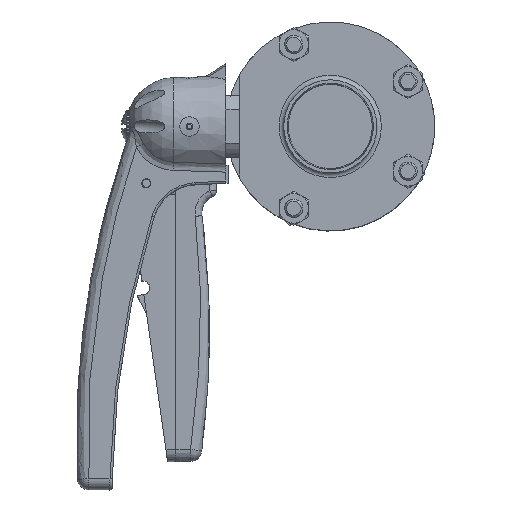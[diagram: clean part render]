
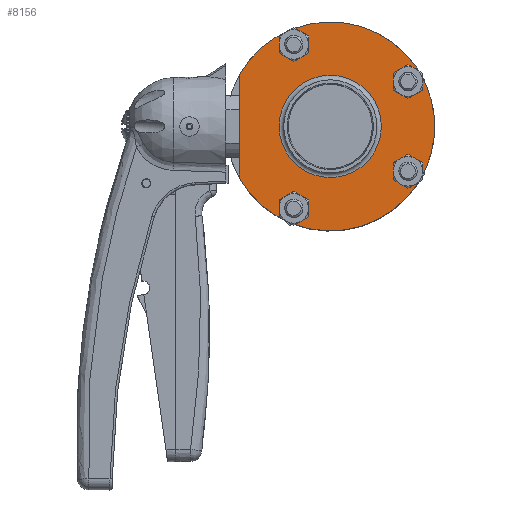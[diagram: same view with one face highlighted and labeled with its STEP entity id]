
A CAD part, top view. The second image highlights one B-rep face of the part: STEP entity #8156.
In plain terms, the highlighted planar face has unit normal (0, 0, 1) as drawn and (0, -1, 0) by its records, which use the part's own axes.
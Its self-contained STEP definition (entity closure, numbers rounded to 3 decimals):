
#914=FACE_BOUND('',#1681,.T.);
#915=FACE_BOUND('',#1682,.T.);
#916=FACE_BOUND('',#1683,.T.);
#917=FACE_BOUND('',#1684,.T.);
#918=FACE_BOUND('',#1685,.T.);
#962=PLANE('',#8832);
#1190=FACE_OUTER_BOUND('',#1680,.T.);
#1680=EDGE_LOOP('',(#5720,#5721));
#1681=EDGE_LOOP('',(#5722));
#1682=EDGE_LOOP('',(#5723));
#1683=EDGE_LOOP('',(#5724));
#1684=EDGE_LOOP('',(#5725));
#1685=EDGE_LOOP('',(#5726));
#2197=LINE('',#11754,#2773);
#2773=VECTOR('',#9667,10.);
#3343=CIRCLE('',#8813,4.25);
#3345=CIRCLE('',#8816,4.25);
#3347=CIRCLE('',#8819,4.25);
#3349=CIRCLE('',#8822,4.25);
#3355=CIRCLE('',#8831,22.5);
#3356=CIRCLE('',#8833,46.);
#3659=VERTEX_POINT('',#11726);
#3661=VERTEX_POINT('',#11732);
#3663=VERTEX_POINT('',#11738);
#3665=VERTEX_POINT('',#11744);
#3667=VERTEX_POINT('',#11750);
#3669=VERTEX_POINT('',#11753);
#3673=VERTEX_POINT('',#11765);
#4437=EDGE_CURVE('',#3659,#3659,#3343,.T.);
#4440=EDGE_CURVE('',#3661,#3661,#3345,.T.);
#4443=EDGE_CURVE('',#3663,#3663,#3347,.T.);
#4446=EDGE_CURVE('',#3665,#3665,#3349,.T.);
#4450=EDGE_CURVE('',#3669,#3667,#2197,.T.);
#4457=EDGE_CURVE('',#3673,#3673,#3355,.T.);
#4458=EDGE_CURVE('',#3669,#3667,#3356,.T.);
#5720=ORIENTED_EDGE('',*,*,#4450,.T.);
#5721=ORIENTED_EDGE('',*,*,#4458,.F.);
#5722=ORIENTED_EDGE('',*,*,#4437,.T.);
#5723=ORIENTED_EDGE('',*,*,#4440,.T.);
#5724=ORIENTED_EDGE('',*,*,#4443,.T.);
#5725=ORIENTED_EDGE('',*,*,#4446,.T.);
#5726=ORIENTED_EDGE('',*,*,#4457,.T.);
#8156=ADVANCED_FACE('',(#1190,#914,#915,#916,#917,#918),#962,.T.);
#8813=AXIS2_PLACEMENT_3D('',#11727,#9638,#9639);
#8816=AXIS2_PLACEMENT_3D('',#11733,#9645,#9646);
#8819=AXIS2_PLACEMENT_3D('',#11739,#9652,#9653);
#8822=AXIS2_PLACEMENT_3D('',#11745,#9659,#9660);
#8831=AXIS2_PLACEMENT_3D('',#11767,#9682,#9683);
#8832=AXIS2_PLACEMENT_3D('',#11768,#9684,#9685);
#8833=AXIS2_PLACEMENT_3D('',#11769,#9686,#9687);
#9638=DIRECTION('center_axis',(0.,1.,0.));
#9639=DIRECTION('ref_axis',(-1.,0.,0.));
#9645=DIRECTION('center_axis',(0.,1.,0.));
#9646=DIRECTION('ref_axis',(-1.,0.,0.));
#9652=DIRECTION('center_axis',(0.,1.,0.));
#9653=DIRECTION('ref_axis',(-1.,0.,0.));
#9659=DIRECTION('center_axis',(0.,1.,0.));
#9660=DIRECTION('ref_axis',(-1.,0.,0.));
#9667=DIRECTION('',(-1.,0.,0.));
#9682=DIRECTION('center_axis',(0.,1.,0.));
#9683=DIRECTION('ref_axis',(1.,0.,0.));
#9684=DIRECTION('center_axis',(0.,-1.,0.));
#9685=DIRECTION('ref_axis',(0.,0.,-1.));
#9686=DIRECTION('center_axis',(0.,1.,0.));
#9687=DIRECTION('ref_axis',(1.,0.,0.));
#11726=CARTESIAN_POINT('',(24.,-10.,-34.208));
#11727=CARTESIAN_POINT('Origin',(19.75,-10.,-34.208));
#11732=CARTESIAN_POINT('',(-15.5,-10.,-34.208));
#11733=CARTESIAN_POINT('Origin',(-19.75,-10.,-34.208));
#11738=CARTESIAN_POINT('',(-31.835,-10.,16.066));
#11739=CARTESIAN_POINT('Origin',(-36.085,-10.,16.066));
#11744=CARTESIAN_POINT('',(40.335,-10.,16.066));
#11745=CARTESIAN_POINT('Origin',(36.085,-10.,16.066));
#11750=CARTESIAN_POINT('',(-22.716,-10.,40.));
#11753=CARTESIAN_POINT('',(22.716,-10.,40.));
#11754=CARTESIAN_POINT('',(0.,-10.,40.));
#11765=CARTESIAN_POINT('',(0.,-10.,-22.5));
#11767=CARTESIAN_POINT('Origin',(0.,-10.,0.));
#11768=CARTESIAN_POINT('Origin',(0.,-10.,46.));
#11769=CARTESIAN_POINT('Origin',(0.,-10.,0.));
